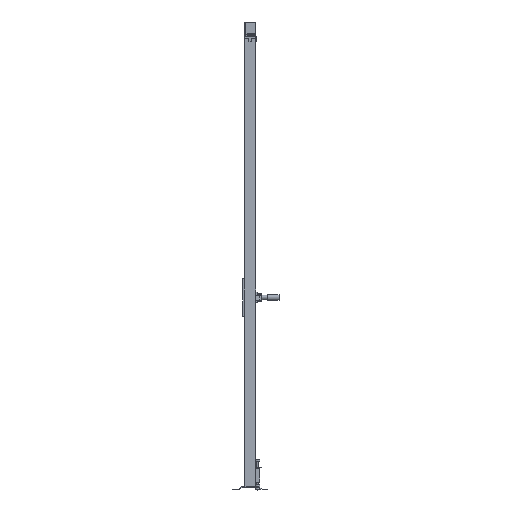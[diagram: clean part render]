
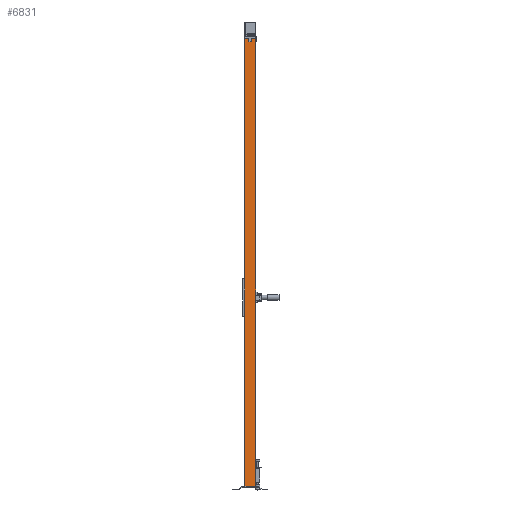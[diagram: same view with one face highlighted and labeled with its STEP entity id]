
A CAD part, left-side view. The second image highlights one B-rep face of the part: STEP entity #6831.
In plain terms, the highlighted planar face has unit normal (-1, 0, 0).
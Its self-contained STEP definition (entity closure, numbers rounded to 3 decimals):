
#872=FACE_OUTER_BOUND('',#1208,.T.);
#1208=EDGE_LOOP('',(#5196,#5197,#5198,#5199));
#1710=LINE('',#9933,#2574);
#1714=LINE('',#9942,#2578);
#1716=LINE('',#9945,#2580);
#1718=LINE('',#9948,#2582);
#2574=VECTOR('',#8010,1.);
#2578=VECTOR('',#8016,1.);
#2580=VECTOR('',#8020,1.);
#2582=VECTOR('',#8024,1.);
#3372=VERTEX_POINT('',#9930);
#3373=VERTEX_POINT('',#9932);
#3376=VERTEX_POINT('',#9939);
#3377=VERTEX_POINT('',#9941);
#4077=EDGE_CURVE('',#3372,#3373,#1710,.T.);
#4081=EDGE_CURVE('',#3376,#3377,#1714,.T.);
#4083=EDGE_CURVE('',#3373,#3376,#1716,.T.);
#4085=EDGE_CURVE('',#3372,#3377,#1718,.T.);
#5196=ORIENTED_EDGE('',*,*,#4085,.T.);
#5197=ORIENTED_EDGE('',*,*,#4081,.F.);
#5198=ORIENTED_EDGE('',*,*,#4083,.F.);
#5199=ORIENTED_EDGE('',*,*,#4077,.F.);
#6542=PLANE('',#7215);
#6831=ADVANCED_FACE('',(#872),#6542,.F.);
#7215=AXIS2_PLACEMENT_3D('',#9947,#8022,#8023);
#8010=DIRECTION('',(0.,-1.,0.));
#8016=DIRECTION('',(0.,1.,0.));
#8020=DIRECTION('',(0.,0.,-1.));
#8022=DIRECTION('center_axis',(1.,0.,0.));
#8023=DIRECTION('ref_axis',(0.,0.,-1.));
#8024=DIRECTION('',(0.,0.,-1.));
#9930=CARTESIAN_POINT('',(-30.,30.,2520.));
#9932=CARTESIAN_POINT('',(-30.,-30.,2520.));
#9933=CARTESIAN_POINT('',(-30.,0.,2520.));
#9939=CARTESIAN_POINT('',(-30.,-30.,20.));
#9941=CARTESIAN_POINT('',(-30.,30.,20.));
#9942=CARTESIAN_POINT('',(-30.,0.,20.));
#9945=CARTESIAN_POINT('',(-30.,-30.,1270.));
#9947=CARTESIAN_POINT('Origin',(-30.,0.,
1270.));
#9948=CARTESIAN_POINT('',(-30.,30.,1270.));
